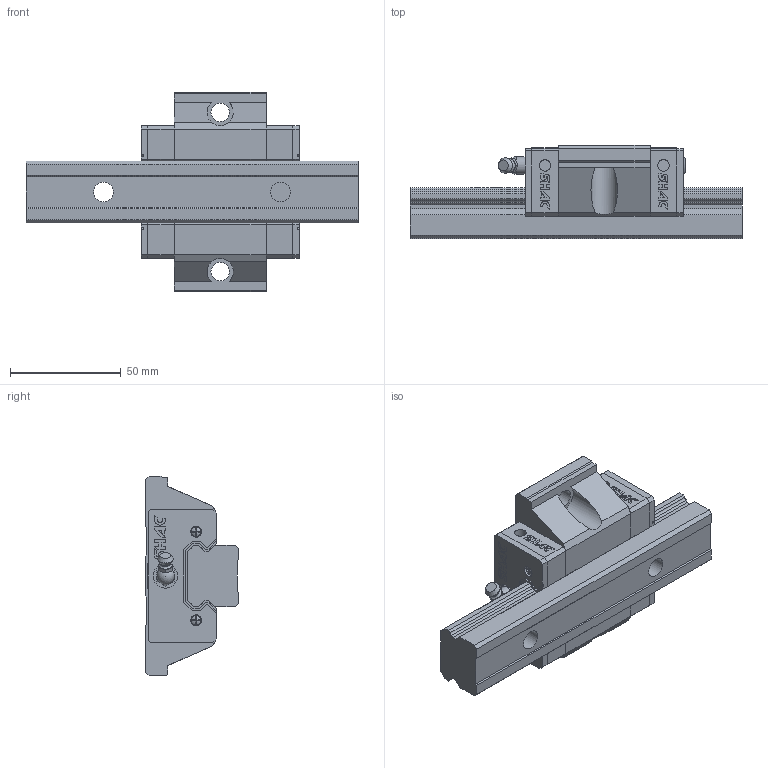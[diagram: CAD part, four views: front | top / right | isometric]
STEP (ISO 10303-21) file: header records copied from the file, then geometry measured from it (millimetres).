
FILE_DESCRIPTION( ( 'STEP AP214' ), '1' );
FILE_NAME( 'F:/品牌/SHAC 台湾鼎翰传动科技有限公司/3D滑块/GEW30SA1U150Z0C-35_35_1__.stp', '2025-04-21T22:51:06', ( 'License CC BY-ND 4.0' ), ( 'CADENAS' ), ' ', 'PARTsolutions', ' ' );
FILE_SCHEMA( ( 'AUTOMOTIVE_DESIGN { 1 0 10303 214 1 1 1 1 }' ) );
Length unit declared in the file: millimetre
Products named in the file (8): GEW30SA1U150Z0C-35/35(1_); _GE30SU150-35/35(2U)_RAIL; _GEW30SA_slider; _GES30_C; _GES30_P; _GH30_SCREW; _GH30_BOLT; _GH30-_G
Assembly tree (12 placements, depth 2):
  GEW30SA1U150Z0C-35/35(1_)
    _GE30SU150-35/35(2U)_RAIL
    _GEW30SA_slider
    _GES30_C  x2
    _GES30_P  x2
    _GH30_SCREW  x4
    _GH30_BOLT
    _GH30-_G
Bounding box: 150 x 42 x 90 mm (x, y, z)
Volume: 214130.6 mm3; surface area: 54005.3 mm2
Topology: 12 solids, 12 shells, 743 faces, 1992 edges, 1319 vertices
Faces by surface type: plane 612, cylinder 101, cone 18, torus 6, sphere 5, bspline 1
Full cylindrical faces by diameter (mm): 2.2 x4, 4.5 x1, 4.65 x4, 5 x4, 5.2 x4, 6 x2, 6.5 x2, 7.1 x2, 8 x1, 8.2 x1, 8.376 x2, 9 x2, 11 x2, 14 x2
Entity records: 17492 total; most frequent: CARTESIAN_POINT 2594, ORIENTED_EDGE 2316, DIRECTION 2211, EDGE_CURVE 1158, LINE 965, VECTOR 965, VERTEX_POINT 786, AXIS2_PLACEMENT_3D 623
